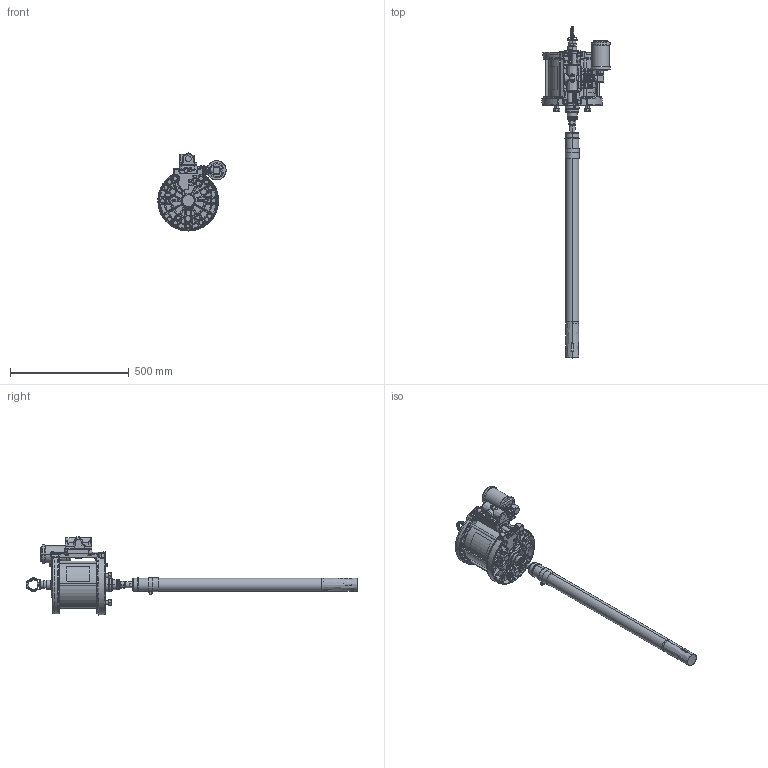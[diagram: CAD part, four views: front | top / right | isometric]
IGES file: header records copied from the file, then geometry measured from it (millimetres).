
Start section:  PTC IGES file: 24w337-en-l.igs
Global section: file name: 24w337-en-l.igs; native system: Creo Parametric by PTC Inc.; preprocessor: 2021072; author: qtmwp1; organization: Unknown; date: 20220214.115006; units: inch
Bounding box: 287.07 x 1395.92 x 327.98 mm (x, y, z)
Surface area: 925242 mm2 (no closed solid volume)
Topology: 0 solids, 0 shells, 1860 faces, 11326 edges, 11324 vertices
Faces by surface type: revolution 1010, bspline 850
